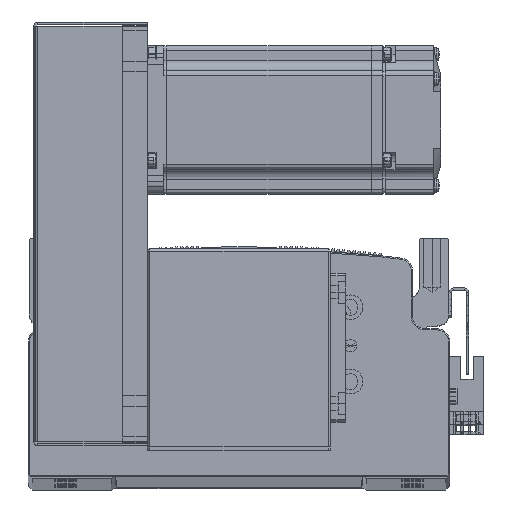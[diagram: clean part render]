
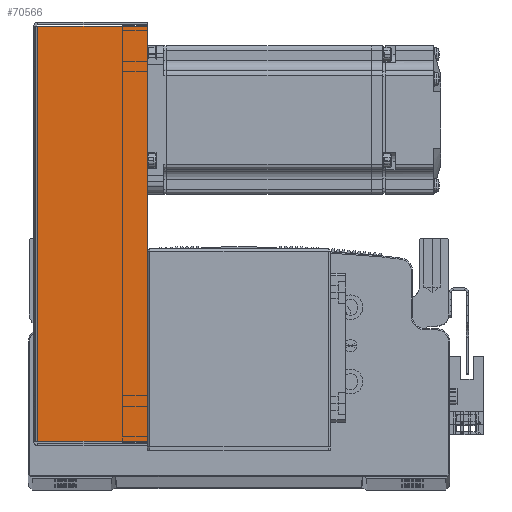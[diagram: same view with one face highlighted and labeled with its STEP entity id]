
A CAD part, top view. The second image highlights one B-rep face of the part: STEP entity #70566.
In plain terms, the highlighted planar face has unit normal (0, 0, 1) as drawn and (0, 0, -1) by its records, which use the part's own axes.
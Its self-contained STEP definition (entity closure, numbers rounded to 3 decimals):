
#2372 = VERTEX_POINT ( 'NONE', #92253 ) ;
#2437 = VERTEX_POINT ( 'NONE', #92305 ) ;
#2454 = VERTEX_POINT ( 'NONE', #92319 ) ;
#2461 = VERTEX_POINT ( 'NONE', #92387 ) ;
#25072 = EDGE_LOOP ( 'NONE', ( #67730, #67652, #67602, #67686 ) ) ;
#48506 = FACE_OUTER_BOUND ( 'NONE', #25072, .T. ) ;
#51305 = AXIS2_PLACEMENT_3D ( 'NONE', #54693, #54688, #54706 ) ;
#54688 = DIRECTION ( 'NONE',  ( 0., 0., 1. ) ) ;
#54693 = CARTESIAN_POINT ( 'NONE',  ( 0., 0., -40.5 ) ) ;
#54699 = PLANE ( 'NONE',  #51305 ) ;
#54706 = DIRECTION ( 'NONE',  ( 0., -1., 0. ) ) ;
#67602 = ORIENTED_EDGE ( 'NONE', *, *, #84378, .T. ) ;
#67652 = ORIENTED_EDGE ( 'NONE', *, *, #84474, .T. ) ;
#67686 = ORIENTED_EDGE ( 'NONE', *, *, #84455, .F. ) ;
#67730 = ORIENTED_EDGE ( 'NONE', *, *, #84500, .F. ) ;
#70566 = ADVANCED_FACE ( 'NONE', ( #48506 ), #54699, .F. ) ;
#74115 = LINE ( 'NONE', #76579, #74179 ) ;
#74179 = VECTOR ( 'NONE', #76594, 1000. ) ;
#74229 = LINE ( 'NONE', #76792, #74317 ) ;
#74235 = LINE ( 'NONE', #76773, #74307 ) ;
#74307 = VECTOR ( 'NONE', #76754, 1000. ) ;
#74317 = VECTOR ( 'NONE', #76755, 1000. ) ;
#74367 = VECTOR ( 'NONE', #76802, 1000. ) ;
#74439 = LINE ( 'NONE', #76824, #74367 ) ;
#76579 = CARTESIAN_POINT ( 'NONE',  ( 84.5, 45., -40.5 ) ) ;
#76594 = DIRECTION ( 'NONE',  ( 1., 0., 0. ) ) ;
#76754 = DIRECTION ( 'NONE',  ( 0., 1., 0. ) ) ;
#76755 = DIRECTION ( 'NONE',  ( 0., 1., 0. ) ) ;
#76773 = CARTESIAN_POINT ( 'NONE',  ( 83.793, 0., -40.5 ) ) ;
#76792 = CARTESIAN_POINT ( 'NONE',  ( -83.793, 0., -40.5 ) ) ;
#76802 = DIRECTION ( 'NONE',  ( 1., 0., 0. ) ) ;
#76824 = CARTESIAN_POINT ( 'NONE',  ( 0., 0.737, -40.5 ) ) ;
#84378 = EDGE_CURVE ( 'NONE', #2372, #2437, #74115, .T. ) ;
#84455 = EDGE_CURVE ( 'NONE', #2454, #2437, #74235, .T. ) ;
#84474 = EDGE_CURVE ( 'NONE', #2461, #2372, #74229, .T. ) ;
#84500 = EDGE_CURVE ( 'NONE', #2461, #2454, #74439, .T. ) ;
#92253 = CARTESIAN_POINT ( 'NONE',  ( -83.793, 45., -40.5 ) ) ;
#92305 = CARTESIAN_POINT ( 'NONE',  ( 83.793, 45., -40.5 ) ) ;
#92319 = CARTESIAN_POINT ( 'NONE',  ( 83.793, 0.737, -40.5 ) ) ;
#92387 = CARTESIAN_POINT ( 'NONE',  ( -83.793, 0.737, -40.5 ) ) ;
